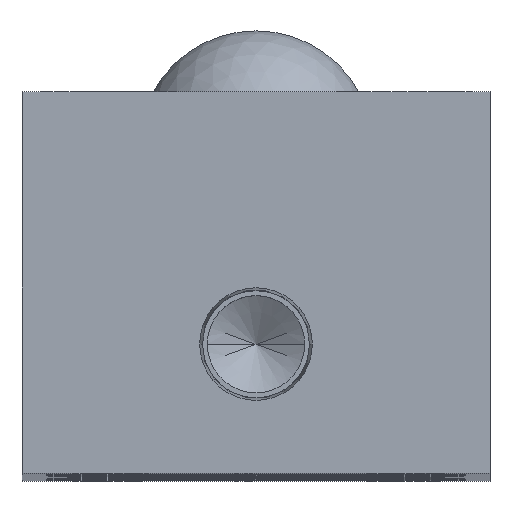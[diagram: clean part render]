
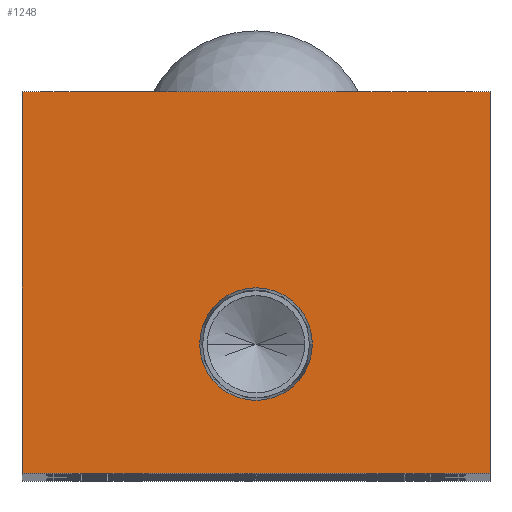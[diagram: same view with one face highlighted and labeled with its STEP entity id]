
A CAD part, top view. The second image highlights one B-rep face of the part: STEP entity #1248.
In plain terms, the highlighted planar face has unit normal (0, 0, 1).
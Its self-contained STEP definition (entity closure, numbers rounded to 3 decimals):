
#258 = FACE_OUTER_BOUND ( 'NONE', #6939, .T. ) ;
#301 = VECTOR ( 'NONE', #8130, 1000. ) ;
#339 = VERTEX_POINT ( 'NONE', #6293 ) ;
#501 = LINE ( 'NONE', #6826, #301 ) ;
#505 = DIRECTION ( 'NONE',  ( 1., 0., 0. ) ) ;
#884 = EDGE_CURVE ( 'NONE', #1249, #4086, #6185, .T. ) ;
#933 = EDGE_CURVE ( 'NONE', #339, #5470, #7305, .T. ) ;
#1166 = CARTESIAN_POINT ( 'NONE',  ( 0., 10.5, 0. ) ) ;
#1238 = CARTESIAN_POINT ( 'NONE',  ( 19., 31., 0. ) ) ;
#1248 = ADVANCED_FACE ( 'NONE', ( #3702, #258 ), #2137, .F. ) ;
#1249 = VERTEX_POINT ( 'NONE', #4708 ) ;
#1384 = ORIENTED_EDGE ( 'NONE', *, *, #6211, .T. ) ;
#1407 = CARTESIAN_POINT ( 'NONE',  ( 4.574, 10.5, 0. ) ) ;
#1523 = CARTESIAN_POINT ( 'NONE',  ( 19., 0., 0. ) ) ;
#1592 = EDGE_LOOP ( 'NONE', ( #4586, #4120 ) ) ;
#1623 = EDGE_CURVE ( 'NONE', #5470, #339, #4575, .T. ) ;
#1825 = DIRECTION ( 'NONE',  ( 1., 0., 0. ) ) ;
#2110 = LINE ( 'NONE', #7708, #5307 ) ;
#2137 = PLANE ( 'NONE',  #4990 ) ;
#2158 = DIRECTION ( 'NONE',  ( -1., 0., 0. ) ) ;
#3013 = DIRECTION ( 'NONE',  ( -1., 0., 0. ) ) ;
#3702 = FACE_BOUND ( 'NONE', #1592, .T. ) ;
#4086 = VERTEX_POINT ( 'NONE', #7195 ) ;
#4120 = ORIENTED_EDGE ( 'NONE', *, *, #933, .F. ) ;
#4356 = DIRECTION ( 'NONE',  ( 0., 0., 1. ) ) ;
#4469 = VECTOR ( 'NONE', #3013, 1000. ) ;
#4575 = CIRCLE ( 'NONE', #6976, 4.574 ) ;
#4586 = ORIENTED_EDGE ( 'NONE', *, *, #1623, .F. ) ;
#4708 = CARTESIAN_POINT ( 'NONE',  ( 19., 31., 0. ) ) ;
#4990 = AXIS2_PLACEMENT_3D ( 'NONE', #5956, #5996, #2158 ) ;
#5307 = VECTOR ( 'NONE', #7747, 1000. ) ;
#5468 = CARTESIAN_POINT ( 'NONE',  ( -19., 0., 0. ) ) ;
#5470 = VERTEX_POINT ( 'NONE', #1407 ) ;
#5563 = VECTOR ( 'NONE', #8302, 1000. ) ;
#5585 = ORIENTED_EDGE ( 'NONE', *, *, #884, .T. ) ;
#5635 = DIRECTION ( 'NONE',  ( 0., 0., 1. ) ) ;
#5664 = ORIENTED_EDGE ( 'NONE', *, *, #6430, .T. ) ;
#5956 = CARTESIAN_POINT ( 'NONE',  ( 0., 0., 0. ) ) ;
#5996 = DIRECTION ( 'NONE',  ( 0., 0., -1. ) ) ;
#6132 = VERTEX_POINT ( 'NONE', #5468 ) ;
#6185 = LINE ( 'NONE', #6842, #4469 ) ;
#6211 = EDGE_CURVE ( 'NONE', #4086, #6132, #501, .T. ) ;
#6293 = CARTESIAN_POINT ( 'NONE',  ( -4.574, 10.5, 0. ) ) ;
#6430 = EDGE_CURVE ( 'NONE', #6132, #7621, #2110, .T. ) ;
#6826 = CARTESIAN_POINT ( 'NONE',  ( -19., 0., 0. ) ) ;
#6842 = CARTESIAN_POINT ( 'NONE',  ( -19., 31., 0. ) ) ;
#6939 = EDGE_LOOP ( 'NONE', ( #1384, #5664, #7580, #5585 ) ) ;
#6976 = AXIS2_PLACEMENT_3D ( 'NONE', #1166, #5635, #1825 ) ;
#7195 = CARTESIAN_POINT ( 'NONE',  ( -19., 31., 0. ) ) ;
#7294 = LINE ( 'NONE', #1238, #5563 ) ;
#7305 = CIRCLE ( 'NONE', #8333, 4.574 ) ;
#7580 = ORIENTED_EDGE ( 'NONE', *, *, #8095, .T. ) ;
#7621 = VERTEX_POINT ( 'NONE', #1523 ) ;
#7708 = CARTESIAN_POINT ( 'NONE',  ( 19., 0., 0. ) ) ;
#7747 = DIRECTION ( 'NONE',  ( 1., 0., 0. ) ) ;
#8095 = EDGE_CURVE ( 'NONE', #7621, #1249, #7294, .T. ) ;
#8130 = DIRECTION ( 'NONE',  ( 0., -1., 0. ) ) ;
#8235 = CARTESIAN_POINT ( 'NONE',  ( 0., 10.5, 0. ) ) ;
#8302 = DIRECTION ( 'NONE',  ( 0., 1., 0. ) ) ;
#8333 = AXIS2_PLACEMENT_3D ( 'NONE', #8235, #4356, #505 ) ;
